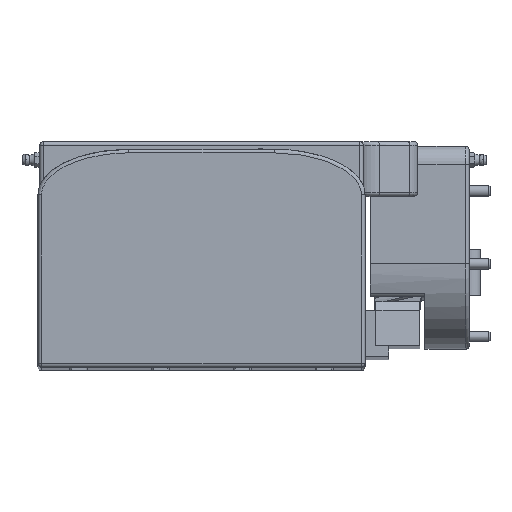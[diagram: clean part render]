
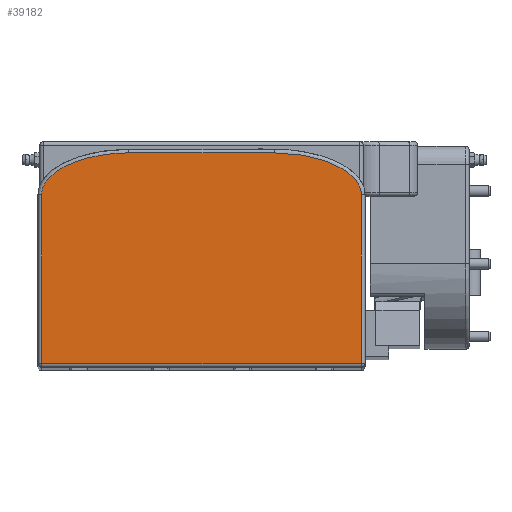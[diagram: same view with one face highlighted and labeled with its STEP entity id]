
A CAD part, top view. The second image highlights one B-rep face of the part: STEP entity #39182.
In plain terms, the highlighted planar face has unit normal (0, 0, 1).
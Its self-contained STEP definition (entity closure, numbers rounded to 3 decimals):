
#373=B_SPLINE_CURVE_WITH_KNOTS('',3,(#57202,#57203,#57204,#57205,#57206,
#57207,#57208,#57209,#57210,#57211,#57212),.UNSPECIFIED.,.F.,.F.,(4,1,1,
1,1,1,1,1,4),(-5.742,-4.101,-2.461,-1.64,
-1.23,-0.82,-0.615,-0.41,
0.),.UNSPECIFIED.);
#374=B_SPLINE_CURVE_WITH_KNOTS('',3,(#57270,#57271,#57272,#57273,#57274,
#57275,#57276,#57277,#57278,#57279),.UNSPECIFIED.,.F.,.F.,(4,1,1,1,1,1,
1,4),(-5.743,-5.332,-4.922,-4.102,
-3.281,-2.461,-1.641,0.),
 .UNSPECIFIED.);
#2878=FACE_OUTER_BOUND('',#5131,.T.);
#5131=EDGE_LOOP('',(#27623,#27624,#27625,#27626,#27627,#27628));
#7526=LINE('',#57144,#11676);
#7527=LINE('',#57216,#11677);
#7528=LINE('',#57291,#11678);
#7530=LINE('',#57294,#11680);
#11676=VECTOR('',#46399,10.);
#11677=VECTOR('',#46406,10.);
#11678=VECTOR('',#46411,10.);
#11680=VECTOR('',#46415,10.);
#16924=VERTEX_POINT('',#57125);
#16927=VERTEX_POINT('',#57135);
#16928=VERTEX_POINT('',#57142);
#16929=VERTEX_POINT('',#57200);
#16930=VERTEX_POINT('',#57214);
#16932=VERTEX_POINT('',#57268);
#20996=EDGE_CURVE('',#16928,#16927,#7526,.T.);
#20998=EDGE_CURVE('',#16929,#16928,#373,.T.);
#21000=EDGE_CURVE('',#16930,#16929,#7527,.T.);
#21002=EDGE_CURVE('',#16932,#16930,#374,.T.);
#21004=EDGE_CURVE('',#16924,#16932,#7528,.T.);
#21006=EDGE_CURVE('',#16927,#16924,#7530,.T.);
#27623=ORIENTED_EDGE('',*,*,#20996,.F.);
#27624=ORIENTED_EDGE('',*,*,#20998,.F.);
#27625=ORIENTED_EDGE('',*,*,#21000,.F.);
#27626=ORIENTED_EDGE('',*,*,#21002,.F.);
#27627=ORIENTED_EDGE('',*,*,#21004,.F.);
#27628=ORIENTED_EDGE('',*,*,#21006,.F.);
#37457=PLANE('',#41971);
#39182=ADVANCED_FACE('',(#2878),#37457,.T.);
#41971=AXIS2_PLACEMENT_3D('',#57304,#46420,#46421);
#46399=DIRECTION('',(0.,-1.,0.));
#46406=DIRECTION('',(1.,0.,0.));
#46411=DIRECTION('',(0.,1.,0.));
#46415=DIRECTION('',(-1.,0.,0.));
#46420=DIRECTION('center_axis',(0.,0.,1.));
#46421=DIRECTION('ref_axis',(1.,0.,0.));
#57125=CARTESIAN_POINT('',(-88.,-45.5,515.));
#57135=CARTESIAN_POINT('',(88.,-45.5,515.));
#57142=CARTESIAN_POINT('',(88.,47.5,515.));
#57144=CARTESIAN_POINT('',(88.,-17.5,515.));
#57200=CARTESIAN_POINT('',(40.,70.5,515.));
#57202=CARTESIAN_POINT('Ctrl Pts',(40.,70.5,515.));
#57203=CARTESIAN_POINT('Ctrl Pts',(45.468,70.5,515.));
#57204=CARTESIAN_POINT('Ctrl Pts',(56.4,69.594,515.));
#57205=CARTESIAN_POINT('Ctrl Pts',(69.669,65.979,515.));
#57206=CARTESIAN_POINT('Ctrl Pts',(78.189,61.512,515.));
#57207=CARTESIAN_POINT('Ctrl Pts',(82.523,58.16,515.));
#57208=CARTESIAN_POINT('Ctrl Pts',(84.876,55.66,515.));
#57209=CARTESIAN_POINT('Ctrl Pts',(86.391,53.378,515.));
#57210=CARTESIAN_POINT('Ctrl Pts',(87.583,50.909,515.));
#57211=CARTESIAN_POINT('Ctrl Pts',(88.,48.867,515.));
#57212=CARTESIAN_POINT('Ctrl Pts',(88.,47.5,515.));
#57214=CARTESIAN_POINT('',(-40.,70.5,515.));
#57216=CARTESIAN_POINT('',(45.,70.5,515.));
#57268=CARTESIAN_POINT('',(-88.,47.5,515.));
#57270=CARTESIAN_POINT('Ctrl Pts',(-88.,47.5,515.));
#57271=CARTESIAN_POINT('Ctrl Pts',(-88.,48.867,515.));
#57272=CARTESIAN_POINT('Ctrl Pts',(-87.446,51.591,515.));
#57273=CARTESIAN_POINT('Ctrl Pts',(-84.635,56.352,515.));
#57274=CARTESIAN_POINT('Ctrl Pts',(-79.378,60.874,515.));
#57275=CARTESIAN_POINT('Ctrl Pts',(-72.118,64.708,515.));
#57276=CARTESIAN_POINT('Ctrl Pts',(-64.345,67.419,515.));
#57277=CARTESIAN_POINT('Ctrl Pts',(-53.666,69.831,515.));
#57278=CARTESIAN_POINT('Ctrl Pts',(-45.469,70.5,515.));
#57279=CARTESIAN_POINT('Ctrl Pts',(-40.,70.5,515.));
#57291=CARTESIAN_POINT('',(-88.,42.5,515.));
#57294=CARTESIAN_POINT('',(-45.,-45.5,515.));
#57304=CARTESIAN_POINT('Origin',(0.,12.5,515.));
